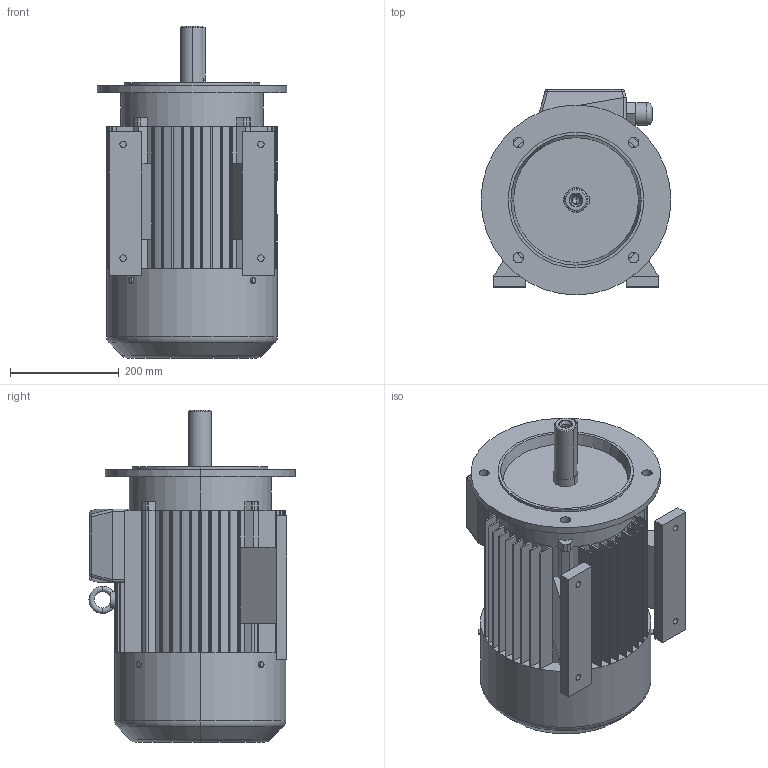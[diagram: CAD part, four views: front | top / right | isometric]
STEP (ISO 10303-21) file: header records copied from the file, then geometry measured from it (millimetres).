
FILE_DESCRIPTION (( 'STEP AP203' ), '1' );
FILE_NAME ('SLg 160M-B35.STEP', '2010-02-09T12:45:04', ( 'INDUKTA' ), ( 'CANTONI MOTOR' ), 'SwSTEP 2.0', 'SolidWorks 2003064', '' );
FILE_SCHEMA (( 'CONFIG_CONTROL_DESIGN' ));
Length unit declared in the file: millimetre
Products named in the file (1): SLg 160M-B35
Bounding box: 350 x 380 x 612 mm (x, y, z)
Volume: 34720706.7 mm3; surface area: 1718130.1 mm2
Topology: 14 solids, 14 shells, 536 faces, 1425 edges, 924 vertices
Faces by surface type: plane 270, cylinder 190, bspline 42, torus 16, cone 14, sphere 4
Entity records: 19799 total; most frequent: CARTESIAN_POINT 6373, ORIENTED_EDGE 2838, DIRECTION 2721, EDGE_CURVE 1419, VERTEX_POINT 924, AXIS2_PLACEMENT_3D 916, VECTOR 889, LINE 889
